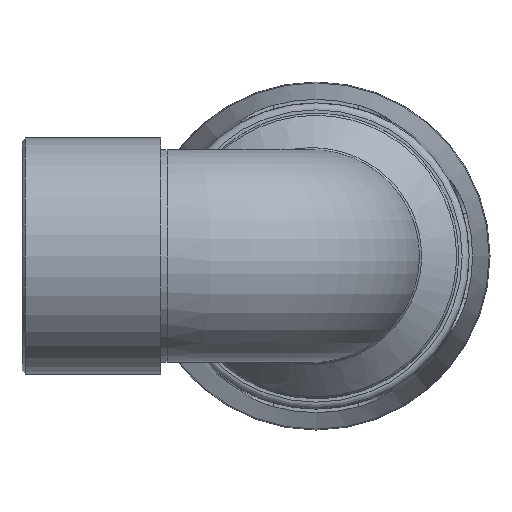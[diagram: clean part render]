
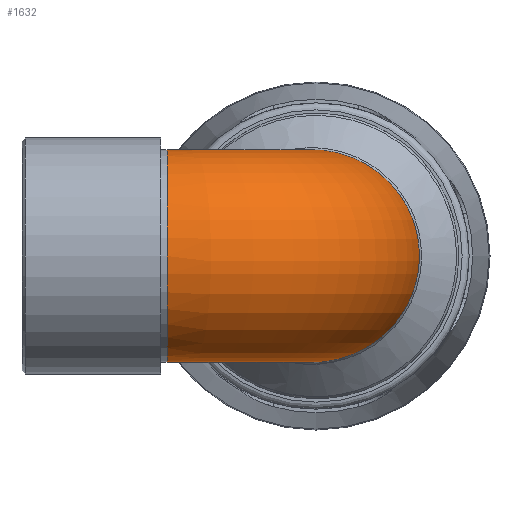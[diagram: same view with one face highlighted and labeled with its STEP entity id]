
A CAD part, left-side view. The second image highlights one B-rep face of the part: STEP entity #1632.
In plain terms, the highlighted toroidal (fillet/blend) face has major radius 24.832 mm and minor radius 17.72 mm.
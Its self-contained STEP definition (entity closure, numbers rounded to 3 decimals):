
#17=TOROIDAL_SURFACE('',#1782,24.832,17.72);
#186=B_SPLINE_CURVE_WITH_KNOTS('',3,(#2801,#2802,#2803,#2804,#2805,#2806,
#2807,#2808,#2809,#2810,#2811,#2812,#2813,#2814,#2815,#2816,#2817,#2818,
#2819,#2820),.UNSPECIFIED.,.T.,.F.,(4,1,1,1,1,1,1,1,1,1,1,1,1,1,1,1,1,4),
(-3.142,-2.917,-2.693,-2.244,
-1.795,-1.346,-0.748,-0.449,
0.15,0.449,0.898,1.346,
1.795,2.244,2.468,2.693,2.917,
3.142),.UNSPECIFIED.);
#365=FACE_BOUND('',#518,.T.);
#395=FACE_OUTER_BOUND('',#517,.T.);
#517=EDGE_LOOP('',(#1186));
#518=EDGE_LOOP('',(#1187));
#664=CIRCLE('',#1777,17.72);
#757=VERTEX_POINT('',#2799);
#761=VERTEX_POINT('',#2831);
#921=EDGE_CURVE('',#757,#757,#186,.T.);
#925=EDGE_CURVE('',#761,#761,#664,.T.);
#1186=ORIENTED_EDGE('',*,*,#921,.F.);
#1187=ORIENTED_EDGE('',*,*,#925,.T.);
#1632=ADVANCED_FACE('',(#395,#365),#17,.T.);
#1777=AXIS2_PLACEMENT_3D('',#2832,#2030,#2031);
#1782=AXIS2_PLACEMENT_3D('',#2840,#2040,#2041);
#2030=DIRECTION('center_axis',(0.,-1.,0.));
#2031=DIRECTION('ref_axis',(-1.,0.,0.));
#2040=DIRECTION('center_axis',(0.,0.,1.));
#2041=DIRECTION('ref_axis',(1.,0.,0.));
#2799=CARTESIAN_POINT('',(18.659,21.3,0.));
#2801=CARTESIAN_POINT('Ctrl Pts',(18.66,21.301,0.));
#2802=CARTESIAN_POINT('Ctrl Pts',(18.66,21.302,1.363));
#2803=CARTESIAN_POINT('Ctrl Pts',(18.569,20.786,4.09));
#2804=CARTESIAN_POINT('Ctrl Pts',(18.287,18.181,9.05));
#2805=CARTESIAN_POINT('Ctrl Pts',(18.191,13.214,14.126));
#2806=CARTESIAN_POINT('Ctrl Pts',(18.26,5.613,17.721));
#2807=CARTESIAN_POINT('Ctrl Pts',(18.328,-3.749,18.029));
#2808=CARTESIAN_POINT('Ctrl Pts',(18.368,-11.311,14.019));
#2809=CARTESIAN_POINT('Ctrl Pts',(18.389,-16.692,6.519));
#2810=CARTESIAN_POINT('Ctrl Pts',(18.394,-17.876,-1.004));
#2811=CARTESIAN_POINT('Ctrl Pts',(18.384,-15.321,-8.901));
#2812=CARTESIAN_POINT('Ctrl Pts',(18.364,-10.516,-14.618));
#2813=CARTESIAN_POINT('Ctrl Pts',(18.322,-2.802,-17.989));
#2814=CARTESIAN_POINT('Ctrl Pts',(18.259,5.604,-17.725));
#2815=CARTESIAN_POINT('Ctrl Pts',(18.205,11.957,-14.726));
#2816=CARTESIAN_POINT('Ctrl Pts',(18.245,16.184,-11.077));
#2817=CARTESIAN_POINT('Ctrl Pts',(18.36,18.839,-7.812));
#2818=CARTESIAN_POINT('Ctrl Pts',(18.568,20.784,-4.089));
#2819=CARTESIAN_POINT('Ctrl Pts',(18.66,21.301,-1.363));
#2820=CARTESIAN_POINT('Ctrl Pts',(18.66,21.301,0.));
#2831=CARTESIAN_POINT('',(17.72,24.832,0.));
#2832=CARTESIAN_POINT('Origin',(0.,24.832,0.));
#2840=CARTESIAN_POINT('Origin',(24.832,24.832,0.));
